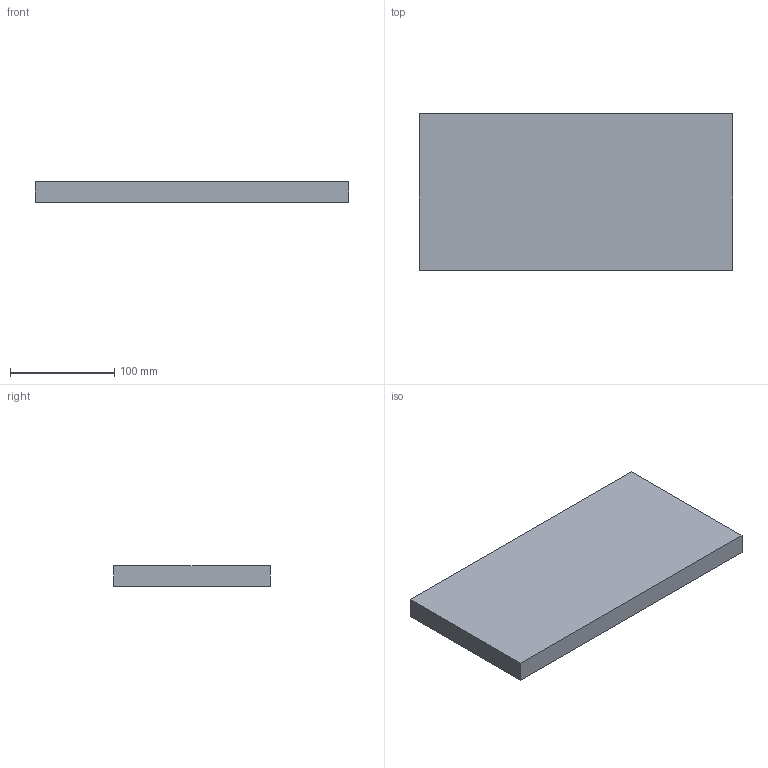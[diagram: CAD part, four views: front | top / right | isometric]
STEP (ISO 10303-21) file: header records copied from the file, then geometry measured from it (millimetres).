
FILE_DESCRIPTION(('Open CASCADE Model'),'2;1');
FILE_NAME('Open CASCADE Shape Model','2026-10-19T10:09:20',('Author'),( 'Open CASCADE'),'Open CASCADE STEP processor 8.0','Open CASCADE 8.0' ,'Unknown');
FILE_SCHEMA(('AUTOMOTIVE_DESIGN { 1 0 10303 214 1 1 1 1 }'));
Length unit declared in the file: millimetre
Products named in the file (1): CR_CHEEK_300x150x20_P05 56
Bounding box: 300 x 150 x 20 mm (x, y, z)
Volume: 900000 mm3; surface area: 108000 mm2
Topology: 1 solids, 1 shells, 6 faces, 12 edges, 8 vertices
Faces by surface type: plane 6
Entity records: 322 total; most frequent: CARTESIAN_POINT 51, DIRECTION 50, LINE 36, VECTOR 36, ORIENTED_EDGE 24, PCURVE 24, DEFINITIONAL_REPRESENTATION 24, EDGE_CURVE 12
